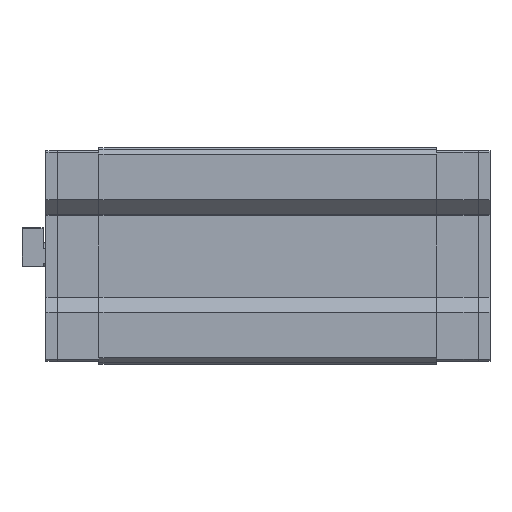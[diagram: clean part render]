
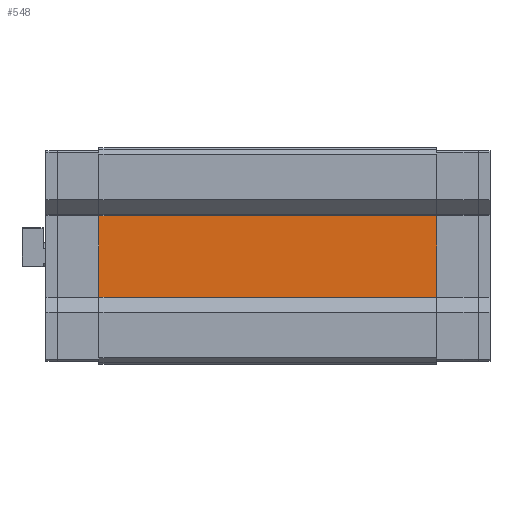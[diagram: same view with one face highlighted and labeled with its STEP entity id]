
A CAD part, front view. The second image highlights one B-rep face of the part: STEP entity #548.
In plain terms, the highlighted planar face has unit normal (0, -1, 0).
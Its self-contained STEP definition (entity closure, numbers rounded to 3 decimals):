
#401 = DIRECTION ( 'NONE',  ( 1., 0., 0. ) ) ;
#458 = FACE_OUTER_BOUND ( 'NONE', #4399, .T. ) ;
#548 = ADVANCED_FACE ( 'NONE', ( #458 ), #670, .F. ) ;
#670 = PLANE ( 'NONE',  #6531 ) ;
#951 = VECTOR ( 'NONE', #1226, 1000. ) ;
#1150 = LINE ( 'NONE', #9664, #5805 ) ;
#1226 = DIRECTION ( 'NONE',  ( 0., 0., -1. ) ) ;
#1970 = VECTOR ( 'NONE', #5218, 1000. ) ;
#1981 = EDGE_CURVE ( 'NONE', #10772, #4009, #7860, .T. ) ;
#2306 = DIRECTION ( 'NONE',  ( 0., 0., 1. ) ) ;
#2900 = ORIENTED_EDGE ( 'NONE', *, *, #6677, .F. ) ;
#3123 = ORIENTED_EDGE ( 'NONE', *, *, #1981, .F. ) ;
#3143 = CARTESIAN_POINT ( 'NONE',  ( -77.9, 0., -19.55 ) ) ;
#3828 = DIRECTION ( 'NONE',  ( 0., 1., 0. ) ) ;
#3960 = VERTEX_POINT ( 'NONE', #7680 ) ;
#4009 = VERTEX_POINT ( 'NONE', #10301 ) ;
#4399 = EDGE_LOOP ( 'NONE', ( #3123, #6392, #2900, #7546 ) ) ;
#4682 = VERTEX_POINT ( 'NONE', #5486 ) ;
#5218 = DIRECTION ( 'NONE',  ( 0., 0., 1. ) ) ;
#5486 = CARTESIAN_POINT ( 'NONE',  ( 77.9, 0., -19.55 ) ) ;
#5559 = LINE ( 'NONE', #7127, #951 ) ;
#5805 = VECTOR ( 'NONE', #401, 1000. ) ;
#6392 = ORIENTED_EDGE ( 'NONE', *, *, #9495, .F. ) ;
#6413 = CARTESIAN_POINT ( 'NONE',  ( 102.4, 0., -19.55 ) ) ;
#6531 = AXIS2_PLACEMENT_3D ( 'NONE', #10493, #3828, #2306 ) ;
#6677 = EDGE_CURVE ( 'NONE', #3960, #4682, #5559, .T. ) ;
#7127 = CARTESIAN_POINT ( 'NONE',  ( 77.9, 0., 12.688 ) ) ;
#7487 = EDGE_CURVE ( 'NONE', #4009, #3960, #1150, .T. ) ;
#7546 = ORIENTED_EDGE ( 'NONE', *, *, #7487, .F. ) ;
#7680 = CARTESIAN_POINT ( 'NONE',  ( 77.9, 0., 18.55 ) ) ;
#7860 = LINE ( 'NONE', #8679, #1970 ) ;
#8679 = CARTESIAN_POINT ( 'NONE',  ( -77.9, 0., 12.688 ) ) ;
#9340 = VECTOR ( 'NONE', #9757, 1000. ) ;
#9495 = EDGE_CURVE ( 'NONE', #4682, #10772, #10585, .T. ) ;
#9664 = CARTESIAN_POINT ( 'NONE',  ( -77.9, 0., 18.55 ) ) ;
#9757 = DIRECTION ( 'NONE',  ( -1., 0., 0. ) ) ;
#10301 = CARTESIAN_POINT ( 'NONE',  ( -77.9, 0., 18.55 ) ) ;
#10493 = CARTESIAN_POINT ( 'NONE',  ( -122.1, 0., -19.5 ) ) ;
#10585 = LINE ( 'NONE', #6413, #9340 ) ;
#10772 = VERTEX_POINT ( 'NONE', #3143 ) ;
